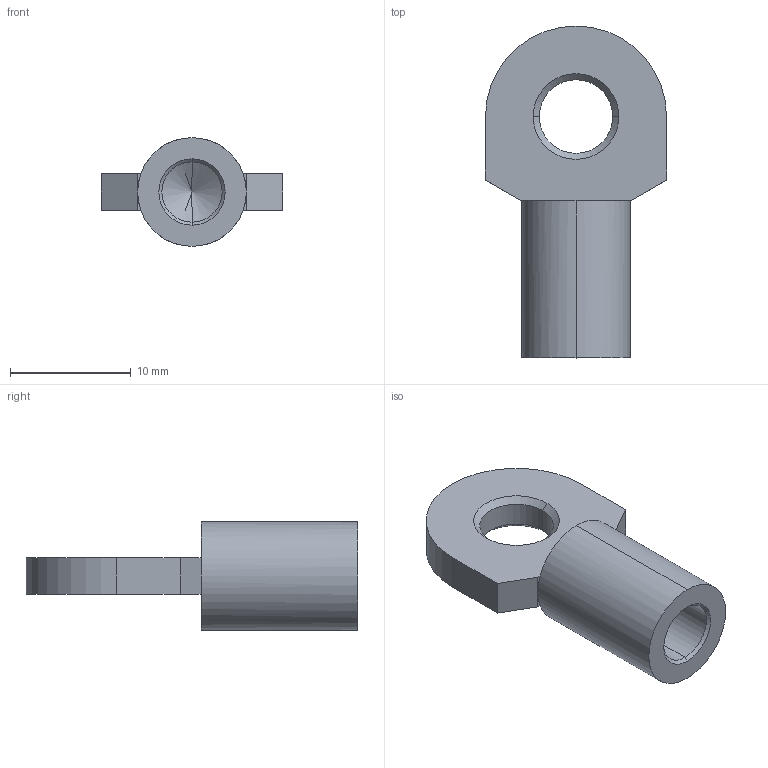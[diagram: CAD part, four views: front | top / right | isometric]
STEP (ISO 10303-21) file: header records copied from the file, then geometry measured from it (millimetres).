
FILE_DESCRIPTION (( 'STEP AP214' ), '1' );
FILE_NAME ('18.06E2STL20.STEP', '2017-11-13T11:31:09', ( '' ), ( '' ), 'SwSTEP 2.0', 'SolidWorks 2016', '' );
FILE_SCHEMA (( 'AUTOMOTIVE_DESIGN' ));
Length unit declared in the file: millimetre
Products named in the file (1): 18.06E2STL20
Bounding box: 15 x 27.5 x 9 mm (x, y, z)
Volume: 1072.5 mm3; surface area: 1130.5 mm2
Topology: 1 solids, 1 shells, 28 faces, 64 edges, 37 vertices
Faces by surface type: plane 13, cone 8, cylinder 7
Entity records: 806 total; most frequent: DIRECTION 146, CARTESIAN_POINT 128, ORIENTED_EDGE 124, EDGE_CURVE 62, AXIS2_PLACEMENT_3D 55, VERTEX_POINT 37, VECTOR 36, LINE 36
